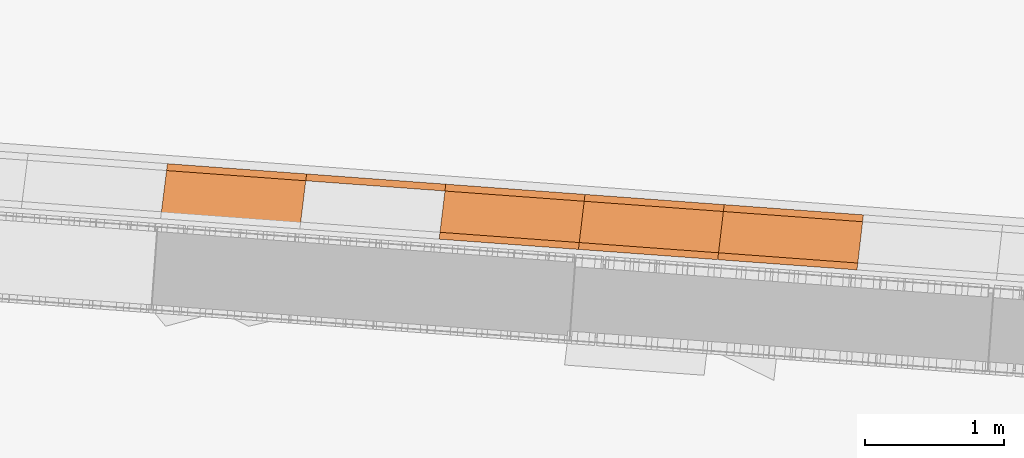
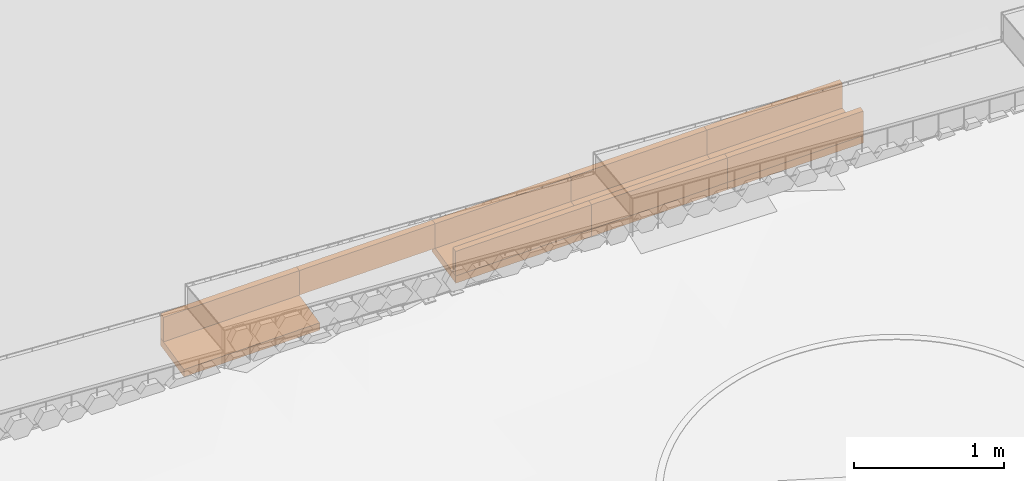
# Not in any storey, part 29 of 46: 12 proxies.
"""IFC4 model written with IfcOpenShell, lengths in metres."""

from ifc_helpers import new_model, si_unit, direction, frame, origin_with_axes, place, context, subcontext, project, spatial, polygons, material, element, save


model = new_model("IFC4")

# Units and contexts
model_context = context("Model", 3, precision=1e-05, world=origin_with_axes(), true_north=direction((0.0, 1.0)))
body_context = subcontext(model_context, "Body", "Model", "MODEL_VIEW")
ifc_project = project(units=[si_unit("VOLUMEUNIT", "CUBIC_METRE"), si_unit("LENGTHUNIT", "METRE"), si_unit("AREAUNIT", "SQUARE_METRE")], contexts=[model_context])

# Site
site_placement = place(None, origin_with_axes())
site = spatial("IfcSite", under=ifc_project, at=site_placement, Name="Lares · Rua das Mercês · artigo 4771")

# Proxies
ifc_material = material(Name="Caleiras · betão", Category="concrete")
proxy_1_placement = place(site_placement, frame((0.0, 0.0, 0.0), z_axis=(0.0, 0.0, 1.0), x_axis=(1.0, -1.03767253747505e-17, 0.0)))
element("IfcBuildingElementProxy", 1, at=proxy_1_placement, inside=site, material=ifc_material, Name="Acesso · canal lateral", ObjectType="Acesso · canal lateral", PredefinedType="USERDEFINED", context=body_context, shape_type="Tessellation", body=[
    polygons([(64.6577203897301, 1.41694982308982, 14.5279545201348), (64.707040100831, 1.8138976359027, 14.5279545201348), (65.7117872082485, 1.74001230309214, 14.6024125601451), (65.6624674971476, 1.34306449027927, 14.6024125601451), (64.6577203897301, 1.41694982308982, 14.5879545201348), (64.707040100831, 1.8138976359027, 14.5879545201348), (65.7117872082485, 1.74001230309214, 14.6624125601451), (65.6624674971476, 1.34306449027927, 14.6624125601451)], [[[4, 3, 2, 1]], [[5, 6, 7, 8]], [[1, 2, 6, 5]], [[2, 3, 7, 6]], [[3, 4, 8, 7]], [[4, 1, 5, 8]]]),
])
proxy_2_placement = place(site_placement, frame((0.0, 0.0, 0.0), z_axis=(0.0, 0.0, 1.0), x_axis=(1.0, -1.03767253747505e-17, 0.0)))
element("IfcBuildingElementProxy", 2, at=proxy_2_placement, inside=site, material=ifc_material, Name="Acesso · canal lateral", ObjectType="Acesso · canal lateral", PredefinedType="USERDEFINED", context=body_context, shape_type="Tessellation", body=[
    polygons([(64.7008751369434, 1.76427915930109, 14.5879545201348), (64.707040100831, 1.8138976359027, 14.5879545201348), (65.7117872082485, 1.74001230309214, 14.6624125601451), (65.7056222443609, 1.69039382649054, 14.6624125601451), (64.7008751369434, 1.76427915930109, 14.7879545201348), (64.707040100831, 1.8138976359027, 14.7879545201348), (65.7117872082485, 1.74001230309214, 14.8624125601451), (65.7056222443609, 1.69039382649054, 14.8624125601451)], [[[4, 3, 2, 1]], [[5, 6, 7, 8]], [[1, 2, 6, 5]], [[2, 3, 7, 6]], [[3, 4, 8, 7]], [[4, 1, 5, 8]]]),
])
proxy_3_placement = place(site_placement, frame((0.0, 0.0, 0.0), z_axis=(0.0, 0.0, 1.0), x_axis=(1.0, -1.03767253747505e-17, 0.0)))
element("IfcBuildingElementProxy", 3, at=proxy_3_placement, inside=site, material=ifc_material, Name="Acesso · canal lateral", ObjectType="Acesso · canal lateral", PredefinedType="USERDEFINED", context=body_context, shape_type="Tessellation", body=[
    polygons([(65.705365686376, 1.69042547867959, 14.6624125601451), (65.7114451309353, 1.74005450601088, 14.6624125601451), (66.7162053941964, 1.66616832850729, 14.7368706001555), (66.7101259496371, 1.61653930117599, 14.7368706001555), (65.705365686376, 1.69042547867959, 14.8624125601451), (65.7114451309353, 1.74005450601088, 14.8624125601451), (66.7162053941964, 1.66616832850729, 14.9368706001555), (66.7101259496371, 1.61653930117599, 14.9368706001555)], [[[4, 3, 2, 1]], [[5, 6, 7, 8]], [[1, 2, 6, 5]], [[2, 3, 7, 6]], [[3, 4, 8, 7]], [[4, 1, 5, 8]]]),
])
proxy_4_placement = place(site_placement, frame((0.0, 0.0, 0.0), z_axis=(0.0, 0.0, 1.0), x_axis=(1.0, -1.03767253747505e-17, 0.0)))
element("IfcBuildingElementProxy", 4, at=proxy_4_placement, inside=site, material=ifc_material, Name="Acesso · canal lateral", ObjectType="Acesso · canal lateral", PredefinedType="USERDEFINED", context=body_context, shape_type="Tessellation", body=[
    polygons([(66.6679222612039, 1.26909325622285, 14.6768706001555), (66.7158529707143, 1.66621118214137, 14.6768706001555), (67.7206269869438, 1.59232415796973, 14.7513286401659), (67.6726962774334, 1.19520623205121, 14.7513286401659), (66.6679222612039, 1.26909325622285, 14.7368706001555), (66.7158529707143, 1.66621118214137, 14.7368706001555), (67.7206269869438, 1.59232415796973, 14.8113286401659), (67.6726962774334, 1.19520623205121, 14.8113286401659)], [[[4, 3, 2, 1]], [[5, 6, 7, 8]], [[1, 2, 6, 5]], [[2, 3, 7, 6]], [[3, 4, 8, 7]], [[4, 1, 5, 8]]]),
])
proxy_5_placement = place(site_placement, frame((0.0, 0.0, 0.0), z_axis=(0.0, 0.0, 1.0), x_axis=(1.0, -1.03767253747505e-17, 0.0)))
element("IfcBuildingElementProxy", 5, at=proxy_5_placement, inside=site, material=ifc_material, Name="Acesso · canal lateral", ObjectType="Acesso · canal lateral", PredefinedType="USERDEFINED", context=body_context, shape_type="Tessellation", body=[
    polygons([(66.6679222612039, 1.26909325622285, 14.7368706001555), (66.6739135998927, 1.31873299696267, 14.7368706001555), (67.6786876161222, 1.24484597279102, 14.8113286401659), (67.6726962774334, 1.19520623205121, 14.8113286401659), (66.6679222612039, 1.26909325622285, 14.9368706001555), (66.6739135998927, 1.31873299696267, 14.9368706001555), (67.6786876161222, 1.24484597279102, 15.0113286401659), (67.6726962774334, 1.19520623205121, 15.0113286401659)], [[[4, 3, 2, 1]], [[5, 6, 7, 8]], [[1, 2, 6, 5]], [[2, 3, 7, 6]], [[3, 4, 8, 7]], [[4, 1, 5, 8]]]),
])
proxy_6_placement = place(site_placement, frame((0.0, 0.0, 0.0), z_axis=(0.0, 0.0, 1.0), x_axis=(1.0, -1.03767253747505e-17, 0.0)))
element("IfcBuildingElementProxy", 6, at=proxy_6_placement, inside=site, material=ifc_material, Name="Acesso · canal lateral", ObjectType="Acesso · canal lateral", PredefinedType="USERDEFINED", context=body_context, shape_type="Tessellation", body=[
    polygons([(66.7098616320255, 1.61657144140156, 14.7368706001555), (66.7158529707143, 1.66621118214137, 14.7368706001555), (67.7206269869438, 1.59232415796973, 14.8113286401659), (67.714635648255, 1.54268441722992, 14.8113286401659), (66.7098616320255, 1.61657144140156, 14.9368706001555), (66.7158529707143, 1.66621118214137, 14.9368706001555), (67.7206269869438, 1.59232415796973, 15.0113286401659), (67.714635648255, 1.54268441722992, 15.0113286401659)], [[[4, 3, 2, 1]], [[5, 6, 7, 8]], [[1, 2, 6, 5]], [[2, 3, 7, 6]], [[3, 4, 8, 7]], [[4, 1, 5, 8]]]),
])
proxy_7_placement = place(site_placement, frame((0.0, 0.0, 0.0), z_axis=(0.0, 0.0, 1.0), x_axis=(1.0, -1.03767253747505e-17, 0.0)))
element("IfcBuildingElementProxy", 7, at=proxy_7_placement, inside=site, material=ifc_material, Name="Acesso · canal lateral", ObjectType="Acesso · canal lateral", PredefinedType="USERDEFINED", context=body_context, shape_type="Tessellation", body=[
    polygons([(67.6730595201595, 1.19516272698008, 14.7513286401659), (67.7202637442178, 1.59236766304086, 14.7513286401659), (68.7250521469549, 1.5184797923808, 14.8257866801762), (68.6778479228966, 1.12127485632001, 14.8257866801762), (67.6730595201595, 1.19516272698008, 14.8113286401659), (67.7202637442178, 1.59236766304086, 14.8113286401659), (68.7250521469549, 1.5184797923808, 14.8857866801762), (68.6778479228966, 1.12127485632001, 14.8857866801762)], [[[4, 3, 2, 1]], [[5, 6, 7, 8]], [[1, 2, 6, 5]], [[2, 3, 7, 6]], [[3, 4, 8, 7]], [[4, 1, 5, 8]]]),
])
proxy_8_placement = place(site_placement, frame((0.0, 0.0, 0.0), z_axis=(0.0, 0.0, 1.0), x_axis=(1.0, -1.03767253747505e-17, 0.0)))
element("IfcBuildingElementProxy", 8, at=proxy_8_placement, inside=site, material=ifc_material, Name="Acesso · canal lateral", ObjectType="Acesso · canal lateral", PredefinedType="USERDEFINED", context=body_context, shape_type="Tessellation", body=[
    polygons([(67.6730595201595, 1.19516272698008, 14.8113286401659), (67.6789600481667, 1.24481334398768, 14.8113286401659), (68.6837484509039, 1.17092547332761, 14.8857866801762), (68.6778479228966, 1.12127485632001, 14.8857866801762), (67.6730595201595, 1.19516272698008, 15.0113286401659), (67.6789600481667, 1.24481334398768, 15.0113286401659), (68.6837484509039, 1.17092547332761, 15.0857866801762), (68.6778479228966, 1.12127485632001, 15.0857866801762)], [[[4, 3, 2, 1]], [[5, 6, 7, 8]], [[1, 2, 6, 5]], [[2, 3, 7, 6]], [[3, 4, 8, 7]], [[4, 1, 5, 8]]]),
])
proxy_9_placement = place(site_placement, frame((0.0, 0.0, 0.0), z_axis=(0.0, 0.0, 1.0), x_axis=(1.0, -1.03767253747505e-17, 0.0)))
element("IfcBuildingElementProxy", 9, at=proxy_9_placement, inside=site, material=ifc_material, Name="Acesso · canal lateral", ObjectType="Acesso · canal lateral", PredefinedType="USERDEFINED", context=body_context, shape_type="Tessellation", body=[
    polygons([(67.7143632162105, 1.54271704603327, 14.8113286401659), (67.7202637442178, 1.59236766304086, 14.8113286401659), (68.7250521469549, 1.5184797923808, 14.8857866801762), (68.7191516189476, 1.4688291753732, 14.8857866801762), (67.7143632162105, 1.54271704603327, 15.0113286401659), (67.7202637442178, 1.59236766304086, 15.0113286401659), (68.7250521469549, 1.5184797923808, 15.0857866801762), (68.7191516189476, 1.4688291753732, 15.0857866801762)], [[[4, 3, 2, 1]], [[5, 6, 7, 8]], [[1, 2, 6, 5]], [[2, 3, 7, 6]], [[3, 4, 8, 7]], [[4, 1, 5, 8]]]),
])
proxy_10_placement = place(site_placement, frame((0.0, 0.0, 0.0), z_axis=(0.0, 0.0, 1.0), x_axis=(1.0, -1.03767253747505e-17, 0.0)))
element("IfcBuildingElementProxy", 10, at=proxy_10_placement, inside=site, material=ifc_material, Name="Acesso · canal lateral", ObjectType="Acesso · canal lateral", PredefinedType="USERDEFINED", context=body_context, shape_type="Tessellation", body=[
    polygons([(68.6782224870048, 1.12123070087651, 14.8257866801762), (68.7246775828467, 1.5185239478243, 14.8257866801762), (69.7294810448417, 1.44463523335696, 14.9002447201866), (69.6830259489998, 1.04734198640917, 14.9002447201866), (68.6782224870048, 1.12123070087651, 14.8857866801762), (68.7246775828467, 1.5185239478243, 14.8857866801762), (69.7294810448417, 1.44463523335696, 14.9602447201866), (69.6830259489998, 1.04734198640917, 14.9602447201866)], [[[4, 3, 2, 1]], [[5, 6, 7, 8]], [[1, 2, 6, 5]], [[2, 3, 7, 6]], [[3, 4, 8, 7]], [[4, 1, 5, 8]]]),
])
proxy_11_placement = place(site_placement, frame((0.0, 0.0, 0.0), z_axis=(0.0, 0.0, 1.0), x_axis=(1.0, -1.03767253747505e-17, 0.0)))
element("IfcBuildingElementProxy", 11, at=proxy_11_placement, inside=site, material=ifc_material, Name="Acesso · canal lateral", ObjectType="Acesso · canal lateral", PredefinedType="USERDEFINED", context=body_context, shape_type="Tessellation", body=[
    polygons([(68.6782224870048, 1.12123070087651, 14.8857866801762), (68.6840293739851, 1.17089235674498, 14.8857866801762), (69.6888328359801, 1.09700364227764, 14.9602447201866), (69.6830259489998, 1.04734198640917, 14.9602447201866), (68.6782224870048, 1.12123070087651, 15.0857866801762), (68.6840293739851, 1.17089235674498, 15.0857866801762), (69.6888328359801, 1.09700364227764, 15.1602447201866), (69.6830259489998, 1.04734198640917, 15.1602447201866)], [[[4, 3, 2, 1]], [[5, 6, 7, 8]], [[1, 2, 6, 5]], [[2, 3, 7, 6]], [[3, 4, 8, 7]], [[4, 1, 5, 8]]]),
])
proxy_12_placement = place(site_placement, frame((0.0, 0.0, 0.0), z_axis=(0.0, 0.0, 1.0), x_axis=(1.0, -1.03767253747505e-17, 0.0)))
element("IfcBuildingElementProxy", 12, at=proxy_12_placement, inside=site, material=ifc_material, Name="Acesso · canal lateral", ObjectType="Acesso · canal lateral", PredefinedType="USERDEFINED", context=body_context, shape_type="Tessellation", body=[
    polygons([(68.7188706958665, 1.46886229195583, 14.8857866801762), (68.7246775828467, 1.5185239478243, 14.8857866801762), (69.7294810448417, 1.44463523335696, 14.9602447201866), (69.7236741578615, 1.39497357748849, 14.9602447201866), (68.7188706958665, 1.46886229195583, 15.0857866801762), (68.7246775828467, 1.5185239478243, 15.0857866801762), (69.7294810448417, 1.44463523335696, 15.1602447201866), (69.7236741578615, 1.39497357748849, 15.1602447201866)], [[[4, 3, 2, 1]], [[5, 6, 7, 8]], [[1, 2, 6, 5]], [[2, 3, 7, 6]], [[3, 4, 8, 7]], [[4, 1, 5, 8]]]),
])

save(model, "model.ifc")
